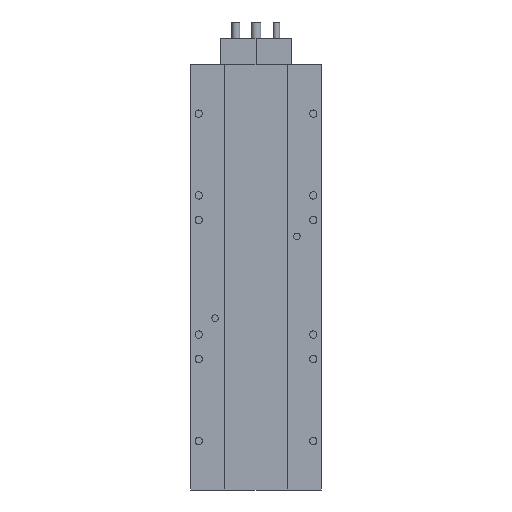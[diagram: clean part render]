
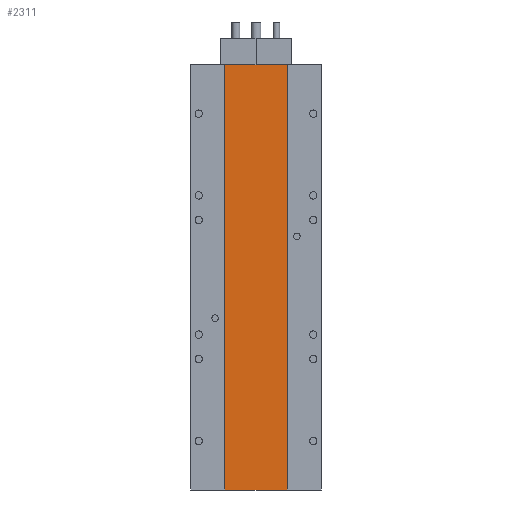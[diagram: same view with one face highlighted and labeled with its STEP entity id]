
A CAD part, front view. The second image highlights one B-rep face of the part: STEP entity #2311.
In plain terms, the highlighted planar face has unit normal (0, -1, 0).
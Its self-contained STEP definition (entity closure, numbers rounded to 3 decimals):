
#49=DIRECTION('',(-1.,0.,0.));
#50=VECTOR('',#49,38.1);
#51=CARTESIAN_POINT('',(19.05,0.25,-130.));
#52=LINE('',#51,#50);
#53=DIRECTION('',(1.,0.,0.));
#54=VECTOR('',#53,38.1);
#55=CARTESIAN_POINT('',(-19.05,0.25,130.));
#56=LINE('',#55,#54);
#57=DIRECTION('',(0.,0.,-1.));
#58=VECTOR('',#57,260.);
#59=CARTESIAN_POINT('',(19.05,0.25,130.));
#60=LINE('',#59,#58);
#61=DIRECTION('',(0.,0.,-1.));
#62=VECTOR('',#61,260.);
#63=CARTESIAN_POINT('',(-19.05,0.25,130.));
#64=LINE('',#63,#62);
#1976=CARTESIAN_POINT('',(19.05,0.25,-130.));
#1978=VERTEX_POINT('',#1976);
#1980=CARTESIAN_POINT('',(-19.05,0.25,-130.));
#1982=VERTEX_POINT('',#1980);
#1984=CARTESIAN_POINT('',(19.05,0.25,130.));
#1986=VERTEX_POINT('',#1984);
#1988=CARTESIAN_POINT('',(-19.05,0.25,130.));
#1990=VERTEX_POINT('',#1988);
#2298=CARTESIAN_POINT('',(19.05,0.25,130.));
#2299=DIRECTION('',(0.,1.,0.));
#2300=DIRECTION('',(-1.,0.,0.));
#2301=AXIS2_PLACEMENT_3D('',#2298,#2299,#2300);
#2302=PLANE('',#2301);
#2303=ORIENTED_EDGE('',*,*,#2278,.T.);
#2305=ORIENTED_EDGE('',*,*,#2304,.F.);
#2307=ORIENTED_EDGE('',*,*,#2306,.T.);
#2308=ORIENTED_EDGE('',*,*,#2289,.T.);
#2309=EDGE_LOOP('',(#2303,#2305,#2307,#2308));
#2310=FACE_OUTER_BOUND('',#2309,.F.);
#2311=ADVANCED_FACE('',(#2310),#2302,.F.);
#2278=EDGE_CURVE('',#1978,#1982,#52,.T.);
#2289=EDGE_CURVE('',#1986,#1978,#60,.T.);
#2304=EDGE_CURVE('',#1990,#1982,#64,.T.);
#2306=EDGE_CURVE('',#1990,#1986,#56,.T.);
